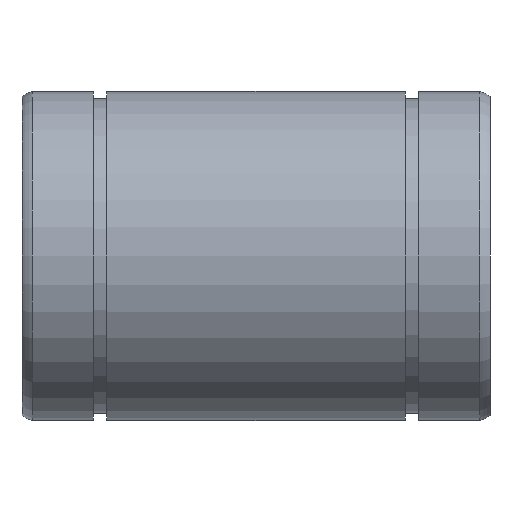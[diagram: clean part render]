
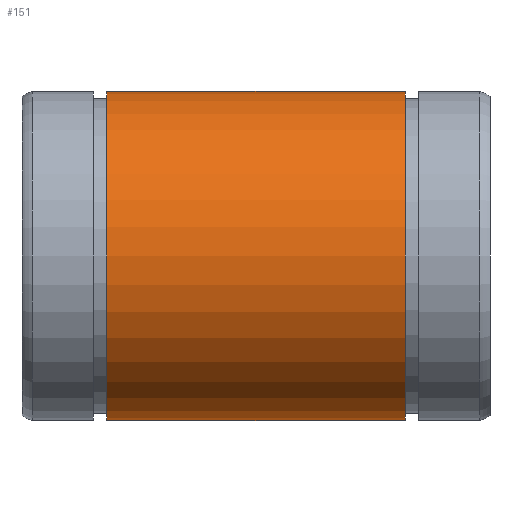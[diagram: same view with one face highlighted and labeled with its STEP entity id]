
A CAD part, front view. The second image highlights one B-rep face of the part: STEP entity #151.
In plain terms, the highlighted cylindrical face has radius 22.5 mm (diameter 45 mm), a full revolution.
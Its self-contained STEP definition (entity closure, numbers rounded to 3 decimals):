
#117=CARTESIAN_POINT('',(52.4,0.0,22.5));
#118=VERTEX_POINT('',#117);
#119=CARTESIAN_POINT('',(52.4,0.0,0.));
#120=DIRECTION('',(-1.0,0.0,0.0));
#121=DIRECTION('',(0.0,0.0,1.0));
#122=AXIS2_PLACEMENT_3D('',#119,#120,#121);
#123=CIRCLE('',#122,22.5);
#124=EDGE_CURVE('',#118,#118,#123,.T.);
#132=CARTESIAN_POINT('',(32.,0.0,0.));
#133=DIRECTION('',(-1.0,0.0,0.0));
#134=DIRECTION('',(0.0,0.0,1.0));
#135=AXIS2_PLACEMENT_3D('',#132,#133,#134);
#136=CYLINDRICAL_SURFACE('',#135,22.5);
#137=CARTESIAN_POINT('',(11.6,0.0,22.5));
#138=VERTEX_POINT('',#137);
#139=CARTESIAN_POINT('',(11.6,0.0,0.));
#140=DIRECTION('',(-1.0,0.0,0.0));
#141=DIRECTION('',(0.0,0.0,1.0));
#142=AXIS2_PLACEMENT_3D('',#139,#140,#141);
#143=CIRCLE('',#142,22.5);
#144=EDGE_CURVE('',#138,#138,#143,.T.);
#145=ORIENTED_EDGE('',*,*,#144,.F.);
#146=EDGE_LOOP('',(#145));
#147=FACE_OUTER_BOUND('',#146,.T.);
#148=ORIENTED_EDGE('',*,*,#124,.T.);
#149=EDGE_LOOP('',(#148));
#150=FACE_BOUND('',#149,.T.);
#151=ADVANCED_FACE('',(#147,#150),#136,.T.);
